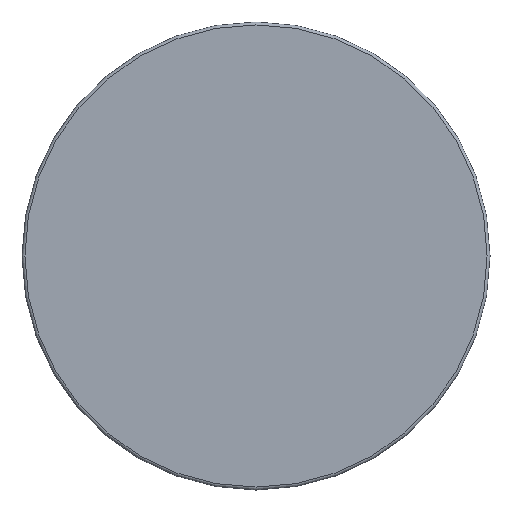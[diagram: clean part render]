
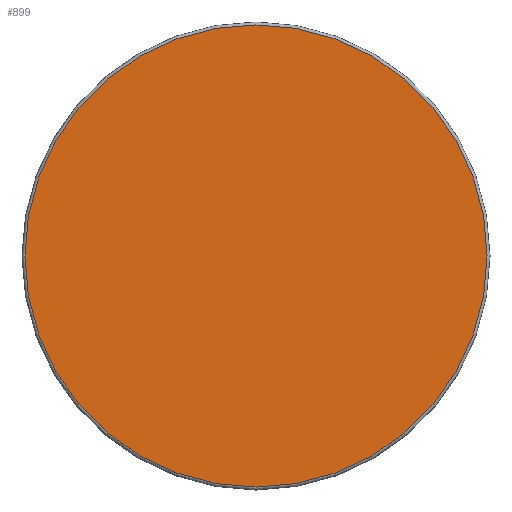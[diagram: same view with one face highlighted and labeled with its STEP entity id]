
A CAD part, left-side view. The second image highlights one B-rep face of the part: STEP entity #899.
In plain terms, the highlighted planar face has unit normal (-1, 0, 0).
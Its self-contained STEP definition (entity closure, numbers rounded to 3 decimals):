
#876=CARTESIAN_POINT('',(0.0,79.0,0.0));
#877=VERTEX_POINT('',#876);
#878=CARTESIAN_POINT('',(0.0,0.0,0.0));
#879=DIRECTION('',(1.0,0.0,0.0));
#880=DIRECTION('',(0.0,-1.0,0.0));
#881=AXIS2_PLACEMENT_3D('',#878,#879,#880);
#882=CIRCLE('',#881,79.0);
#883=EDGE_CURVE('',#877,#877,#882,.T.);
#891=CARTESIAN_POINT('',(0.0,59.5,0.));
#892=DIRECTION('',(-1.0,0.0,0.0));
#893=DIRECTION('',(0.0,0.0,1.0));
#894=AXIS2_PLACEMENT_3D('',#891,#892,#893);
#895=PLANE('',#894);
#896=ORIENTED_EDGE('',*,*,#883,.F.);
#897=EDGE_LOOP('',(#896));
#898=FACE_OUTER_BOUND('',#897,.T.);
#899=ADVANCED_FACE('',(#898),#895,.T.);
